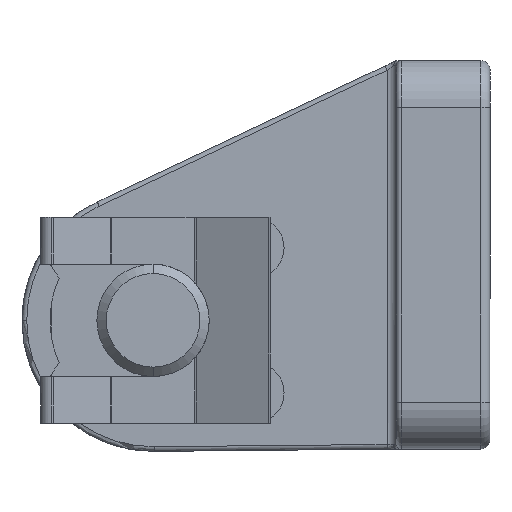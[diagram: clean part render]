
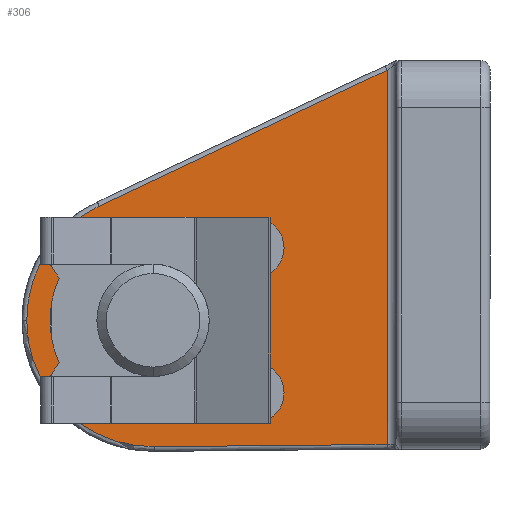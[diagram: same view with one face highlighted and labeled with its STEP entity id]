
A CAD part, left-side view. The second image highlights one B-rep face of the part: STEP entity #306.
In plain terms, the highlighted planar face has unit normal (-1, 0, 0).
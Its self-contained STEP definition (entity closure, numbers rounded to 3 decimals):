
#169 = EDGE_CURVE ( 'NONE', #3760, #3759, #1278, .T. ) ;
#284 = EDGE_CURVE ( 'NONE', #285, #286, #1494, .T. ) ;
#285 = VERTEX_POINT ( 'NONE', #1490 ) ;
#286 = VERTEX_POINT ( 'NONE', #1489 ) ;
#287 = ORIENTED_EDGE ( 'NONE', *, *, #288, .T. ) ;
#288 = EDGE_CURVE ( 'NONE', #286, #289, #1488, .T. ) ;
#289 = VERTEX_POINT ( 'NONE', #1484 ) ;
#290 = ORIENTED_EDGE ( 'NONE', *, *, #291, .T. ) ;
#291 = EDGE_CURVE ( 'NONE', #289, #3555, #1549, .T. ) ;
#292 = ORIENTED_EDGE ( 'NONE', *, *, #3554, .T. ) ;
#293 = ORIENTED_EDGE ( 'NONE', *, *, #294, .T. ) ;
#294 = EDGE_CURVE ( 'NONE', #3557, #285, #1550, .T. ) ;
#306 = ADVANCED_FACE ( 'NONE', ( #1516, #1515 ), #1521, .F. ) ;
#307 = EDGE_LOOP ( 'NONE', ( #308, #309 ) ) ;
#308 = ORIENTED_EDGE ( 'NONE', *, *, #169, .T. ) ;
#309 = ORIENTED_EDGE ( 'NONE', *, *, #3757, .T. ) ;
#310 = EDGE_LOOP ( 'NONE', ( #311, #287, #290, #292, #293 ) ) ;
#311 = ORIENTED_EDGE ( 'NONE', *, *, #284, .T. ) ;
#1274 = DIRECTION ( 'NONE',  ( 0., 1., 0. ) ) ;
#1275 = DIRECTION ( 'NONE',  ( 1., 0., 0. ) ) ;
#1276 = CARTESIAN_POINT ( 'NONE',  ( -44., 0., 0. ) ) ;
#1277 = AXIS2_PLACEMENT_3D ( 'NONE', #1276, #1275, #1274 ) ;
#1278 = CIRCLE ( 'NONE', #1277, 6. ) ;
#1484 = CARTESIAN_POINT ( 'NONE',  ( -44., 5.761, 12.209 ) ) ;
#1485 = DIRECTION ( 'NONE',  ( 0., 0.904, -0.427 ) ) ;
#1486 = VECTOR ( 'NONE', #1485, 1000. ) ;
#1487 = CARTESIAN_POINT ( 'NONE',  ( -44., 5.761, 12.209 ) ) ;
#1488 = LINE ( 'NONE', #1487, #1486 ) ;
#1489 = CARTESIAN_POINT ( 'NONE',  ( -44., -25., 26.725 ) ) ;
#1490 = CARTESIAN_POINT ( 'NONE',  ( -44., -25., -13.26 ) ) ;
#1491 = DIRECTION ( 'NONE',  ( 0., 0., 1. ) ) ;
#1492 = VECTOR ( 'NONE', #1491, 1000. ) ;
#1493 = CARTESIAN_POINT ( 'NONE',  ( -44., -25., 27.75 ) ) ;
#1494 = LINE ( 'NONE', #1493, #1492 ) ;
#1515 = FACE_OUTER_BOUND ( 'NONE', #310, .T. ) ;
#1516 = FACE_BOUND ( 'NONE', #307, .T. ) ;
#1521 = PLANE ( 'NONE',  #1582 ) ;
#1542 = DIRECTION ( 'NONE',  ( 0., -1., 0.01 ) ) ;
#1543 = VECTOR ( 'NONE', #1542, 1000. ) ;
#1544 = CARTESIAN_POINT ( 'NONE',  ( -44., -24.995, -13.26 ) ) ;
#1545 = DIRECTION ( 'NONE',  ( 0., 1., 0. ) ) ;
#1546 = DIRECTION ( 'NONE',  ( -1., 0., 0. ) ) ;
#1547 = CARTESIAN_POINT ( 'NONE',  ( -44., 0., 0. ) ) ;
#1548 = AXIS2_PLACEMENT_3D ( 'NONE', #1547, #1546, #1545 ) ;
#1549 = CIRCLE ( 'NONE', #1548, 13.5 ) ;
#1550 = LINE ( 'NONE', #1544, #1543 ) ;
#1578 = DIRECTION ( 'NONE',  ( 0., 1., 0. ) ) ;
#1579 = DIRECTION ( 'NONE',  ( 1., 0., 0. ) ) ;
#1581 = CARTESIAN_POINT ( 'NONE',  ( -44., 14., 27.751 ) ) ;
#1582 = AXIS2_PLACEMENT_3D ( 'NONE', #1581, #1579, #1578 ) ;
#3554 = EDGE_CURVE ( 'NONE', #3555, #3557, #5246, .T. ) ;
#3555 = VERTEX_POINT ( 'NONE', #5241 ) ;
#3557 = VERTEX_POINT ( 'NONE', #5240 ) ;
#3757 = EDGE_CURVE ( 'NONE', #3759, #3760, #5483, .T. ) ;
#3759 = VERTEX_POINT ( 'NONE', #5475 ) ;
#3760 = VERTEX_POINT ( 'NONE', #5474 ) ;
#5240 = CARTESIAN_POINT ( 'NONE',  ( -44., -0.13, -13.499 ) ) ;
#5241 = CARTESIAN_POINT ( 'NONE',  ( -44., 13.5, 0. ) ) ;
#5242 = DIRECTION ( 'NONE',  ( 0., 1., 0. ) ) ;
#5243 = DIRECTION ( 'NONE',  ( -1., 0., 0. ) ) ;
#5244 = CARTESIAN_POINT ( 'NONE',  ( -44., 0., 0. ) ) ;
#5245 = AXIS2_PLACEMENT_3D ( 'NONE', #5244, #5243, #5242 ) ;
#5246 = CIRCLE ( 'NONE', #5245, 13.5 ) ;
#5474 = CARTESIAN_POINT ( 'NONE',  ( -44., 0., -6. ) ) ;
#5475 = CARTESIAN_POINT ( 'NONE',  ( -44., 0., 6. ) ) ;
#5476 = DIRECTION ( 'NONE',  ( 0., 1., 0. ) ) ;
#5477 = DIRECTION ( 'NONE',  ( 1., 0., 0. ) ) ;
#5478 = CARTESIAN_POINT ( 'NONE',  ( -44., 0., 0. ) ) ;
#5479 = AXIS2_PLACEMENT_3D ( 'NONE', #5478, #5477, #5476 ) ;
#5483 = CIRCLE ( 'NONE', #5479, 6. ) ;
